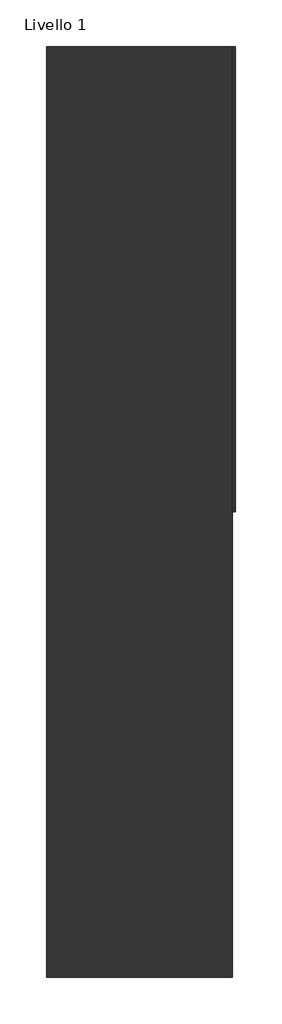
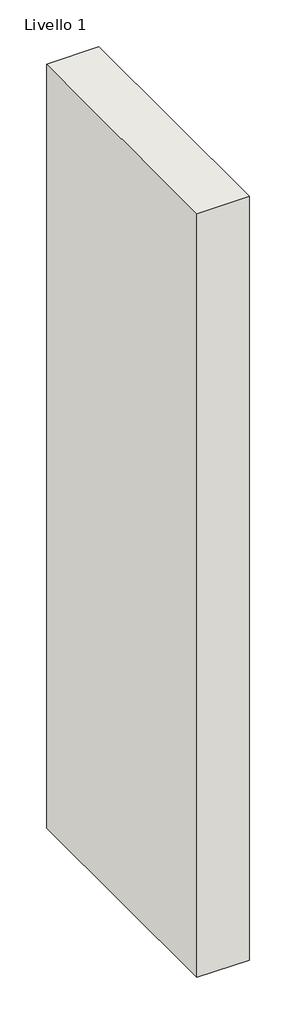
# One storey: 1 wall.
"""IFC4 building model written with IfcOpenShell, lengths in millimetres."""

from ifc_helpers import new_model, si_unit, origin, origin_with_axes, place, context, project, spatial, polyline, outline, extrude, element, save

model = new_model("IFC4")

# Units and contexts
model_context = context("Model", 3, world=origin())
ifc_project = project(units=[si_unit("LENGTHUNIT", "METRE", prefix="MILLI")], contexts=[model_context])

# Site, building, storey
site = spatial("IfcSite", under=ifc_project)
building = spatial("IfcBuilding", under=site)
storey = spatial("IfcBuildingStorey", under=building, Name="Livello 1", Elevation=0.0)

# Wall
placement = place(None, origin())
element("IfcWall", 1, ObjectType="MAPEI - Sistema para a reparação e proteção de estruturas em betão armado com acabamento elastomérico", at=placement, inside=storey, context=model_context, shape_type="SweptSolid", body=[
    extrude(outline(polyline([(459.5213918, 1184.9122843), (459.5213918, 684.9122843), (456.0713918, 684.9122843), (456.0713918, 1184.9122843), (459.5213918, 1184.9122843)])), origin_with_axes(), (0.0, 0.0, 1.0), 2300.0),
    extrude(outline(polyline([(256.0713918, 184.9122843), (256.0713918, 1184.9122843), (456.0713918, 1184.9122843), (456.0713918, 184.9122843), (256.0713918, 184.9122843)])), origin_with_axes(), (0.0, 0.0, 1.0), 3100.0),
])

save(model, "model.ifc")
